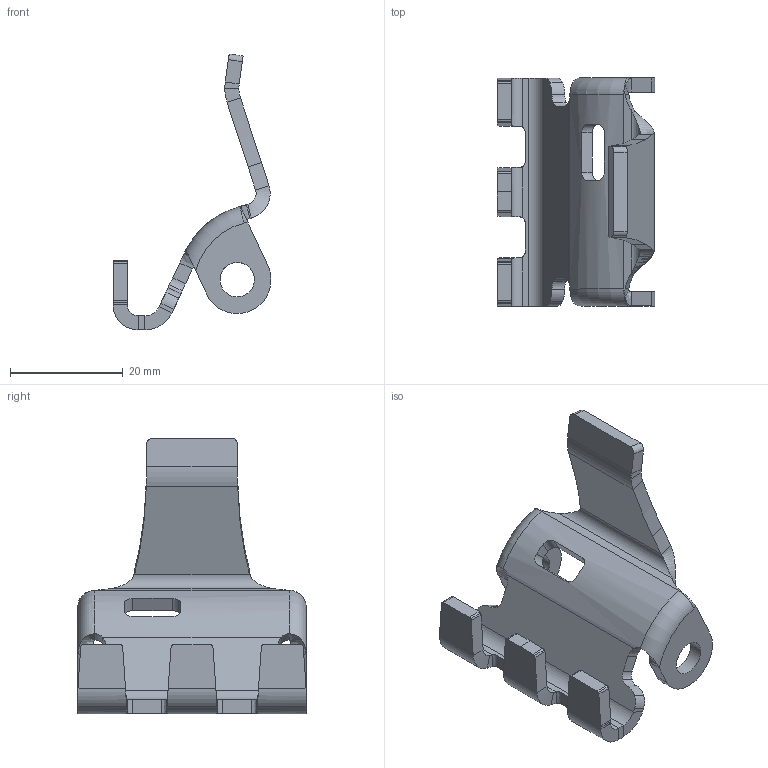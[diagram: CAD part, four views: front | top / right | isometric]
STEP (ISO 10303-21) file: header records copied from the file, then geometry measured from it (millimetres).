
FILE_DESCRIPTION(('CATIA V5 STEP Exchange'),'2;1');
FILE_NAME('D:\杨逍（新）\05-张磊\2022.11.10-转盘图纸-张磊\2022.11.18-单件图纸\SHT0015135-气动转盘解锁钣金\SHT0015135.stp','2022-11-19T08:15:08+00:00',('none'),('none'),'CATIA Version 5 Release 20 GA (IN-10)','CATIA V5 STEP AP214','none');
FILE_SCHEMA(('AUTOMOTIVE_DESIGN { 1 0 10303 214 1 1 1 1 }'));
Length unit declared in the file: millimetre
Products named in the file (1): Part29
Bounding box: 27.98 x 40.4 x 48.88 mm (x, y, z)
Volume: 5410.2 mm3; surface area: 5287 mm2
Topology: 1 solids, 1 shells, 160 faces, 405 edges, 246 vertices
Faces by surface type: cylinder 65, plane 61, bspline 20, extrusion 10, torus 4
Entity records: 5953 total; most frequent: CARTESIAN_POINT 2486, ORIENTED_EDGE 810, DIRECTION 521, EDGE_CURVE 405, VERTEX_POINT 246, VECTOR 206, AXIS2_PLACEMENT_3D 199, LINE 196
